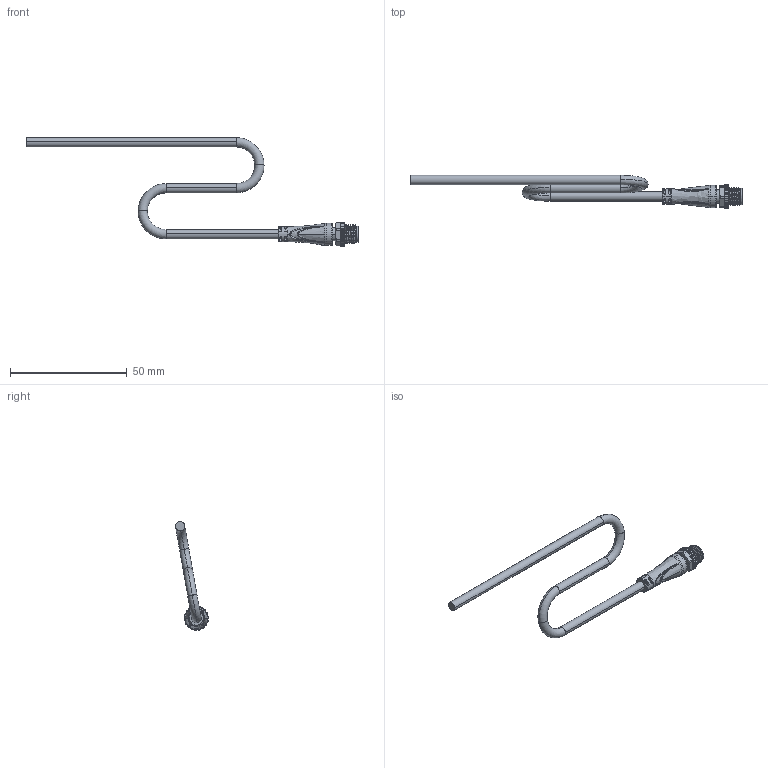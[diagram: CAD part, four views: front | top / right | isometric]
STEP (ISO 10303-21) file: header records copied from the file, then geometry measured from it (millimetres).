
FILE_DESCRIPTION (( 'STEP AP214' ), '1' );
FILE_NAME ('M8眻芛3P鼠傷.STEP', '2025-01-03T03:48:09', ( 'Windows User' ), ( 'P R C' ), 'SwSTEP 2.0', 'SolidWorks 2023', '' );
FILE_SCHEMA (( 'AUTOMOTIVE_DESIGN' ));
Length unit declared in the file: millimetre
Products named in the file (6): M8-0°包胶_φ4; M8直头3P公端; SD1705294-M8-3P公端插座-A0; 导线_φ4.0; SD1100823-M8滚花螺栓（外螺纹对边9）-A0; SD1705298-M8公端插针-A0
Assembly tree (7 placements, depth 2):
  M8直头3P公端
    M8-0°包胶_φ4
    SD1705294-M8-3P公端插座-A0
    SD1705298-M8公端插针-A0  x3
    导线_φ4.0
    SD1100823-M8滚花螺栓（外螺纹对边9）-A0
Bounding box: 142.25 x 14.17 x 46.59 mm (x, y, z)
Volume: 4495.4 mm3; surface area: 5530.6 mm2
Topology: 13 solids, 13 shells, 1217 faces, 3126 edges, 1943 vertices
Faces by surface type: plane 475, cylinder 338, cone 174, bspline 148, torus 64, sphere 18
Entity records: 33109 total; most frequent: CARTESIAN_POINT 14127, ORIENTED_EDGE 4328, DIRECTION 3446, EDGE_CURVE 2164, VERTEX_POINT 1377, AXIS2_PLACEMENT_3D 1299, EDGE_LOOP 859, VECTOR 848
